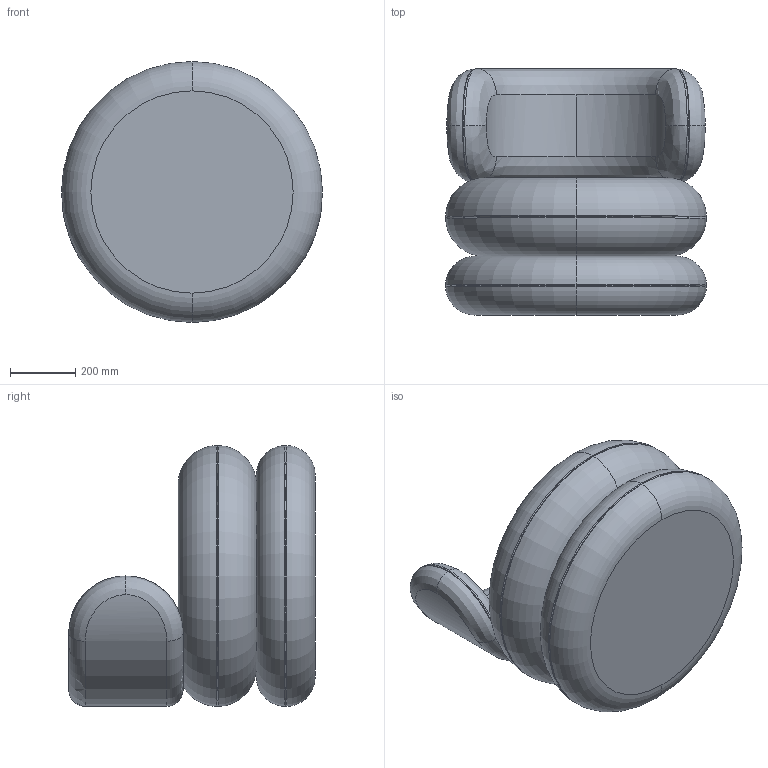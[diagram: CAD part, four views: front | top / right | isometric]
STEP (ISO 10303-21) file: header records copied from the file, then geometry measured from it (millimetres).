
FILE_DESCRIPTION (( 'STEP AP214' ), '1' );
FILE_NAME ('Easy Chair.STEP', '2024-04-03T09:12:22', ( '' ), ( '' ), 'SwSTEP 2.0', 'SolidWorks 2022', '' );
FILE_SCHEMA (( 'AUTOMOTIVE_DESIGN' ));
Length unit declared in the file: millimetre
Products named in the file (3): 96 54977 Easy Chair; 96 54978 Easy Chair back rest; Easy Chair
Assembly tree (2 placements, depth 2):
  Easy Chair
    96 54977 Easy Chair
    96 54978 Easy Chair back rest
Bounding box: 799.92 x 755 x 799.96 mm (x, y, z)
Volume: 225552371.1 mm3; surface area: 2986646.9 mm2
Topology: 2 solids, 2 shells, 57 faces, 136 edges, 84 vertices
Faces by surface type: bspline 28, torus 18, cylinder 8, plane 3
Entity records: 6566 total; most frequent: CARTESIAN_POINT 5384, ORIENTED_EDGE 272, DIRECTION 172, EDGE_CURVE 136, VERTEX_POINT 84, AXIS2_PLACEMENT_3D 84, B_SPLINE_CURVE_WITH_KNOTS 72, EDGE_LOOP 58
